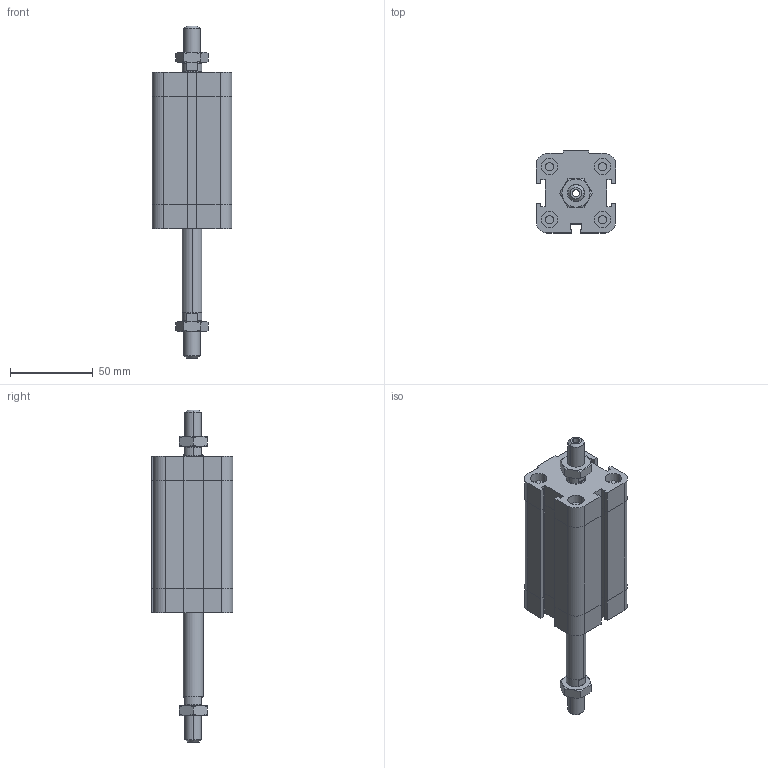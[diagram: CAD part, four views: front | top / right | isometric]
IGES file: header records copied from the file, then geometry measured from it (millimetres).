
Global section: file name: No Iges File Name specified; native system: Autodesk Inventor 2009; preprocessor: AutoDesk Inventor Iges Exporter R2009; author: maffial1; date: 20090420.142710; units: millimetre
Bounding box: 48 x 49.5 x 200.5 mm (x, y, z)
Volume: 200934.8 mm3; surface area: 44996.5 mm2
Topology: 4 solids, 4 shells, 262 faces, 580 edges, 346 vertices
Faces by surface type: plane 129, bspline 53, cone 38, cylinder 22, revolution 20
